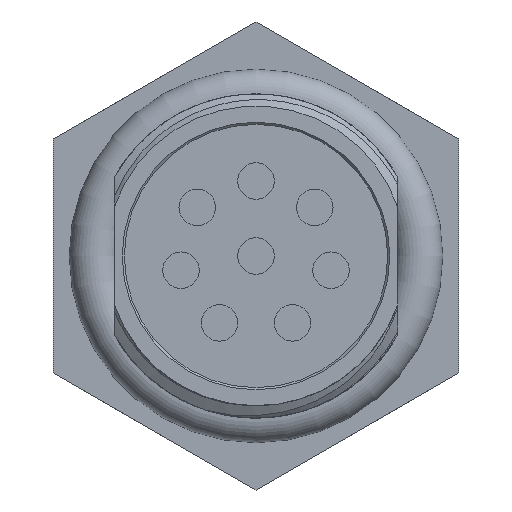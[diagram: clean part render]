
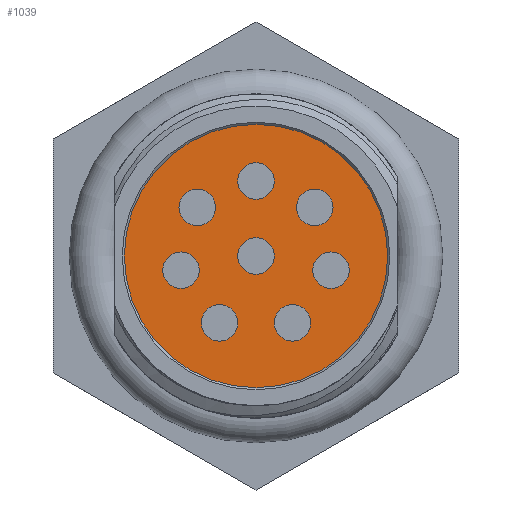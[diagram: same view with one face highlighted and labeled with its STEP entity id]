
A CAD part, left-side view. The second image highlights one B-rep face of the part: STEP entity #1039.
In plain terms, the highlighted planar face has unit normal (-1, 0, 0).
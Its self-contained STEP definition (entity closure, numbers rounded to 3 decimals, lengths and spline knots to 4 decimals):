
#1039=ADVANCED_FACE('',(#1571,#1572,#1573,#1574,#1575,#1576,#1577,#1578,
#1579),#1249,.T.);
#1249=PLANE('',#5578);
#1395=CIRCLE('',#5561,0.45);
#1396=CIRCLE('',#5563,0.45);
#1397=CIRCLE('',#5565,0.45);
#1398=CIRCLE('',#5567,0.45);
#1399=CIRCLE('',#5569,0.45);
#1400=CIRCLE('',#5571,0.45);
#1401=CIRCLE('',#5573,0.45);
#1402=CIRCLE('',#5575,0.45);
#1403=CIRCLE('',#5577,3.25);
#1571=FACE_BOUND('',#1890,.T.);
#1572=FACE_BOUND('',#1891,.T.);
#1573=FACE_BOUND('',#1892,.T.);
#1574=FACE_BOUND('',#1893,.T.);
#1575=FACE_BOUND('',#1894,.T.);
#1576=FACE_BOUND('',#1895,.T.);
#1577=FACE_BOUND('',#1896,.T.);
#1578=FACE_BOUND('',#1897,.T.);
#1579=FACE_BOUND('',#1898,.T.);
#1890=EDGE_LOOP('',(#2833));
#1891=EDGE_LOOP('',(#2834));
#1892=EDGE_LOOP('',(#2835));
#1893=EDGE_LOOP('',(#2836));
#1894=EDGE_LOOP('',(#2837));
#1895=EDGE_LOOP('',(#2838));
#1896=EDGE_LOOP('',(#2839));
#1897=EDGE_LOOP('',(#2840));
#1898=EDGE_LOOP('',(#2841));
#2833=ORIENTED_EDGE('',*,*,#4388,.T.);
#2834=ORIENTED_EDGE('',*,*,#4387,.T.);
#2835=ORIENTED_EDGE('',*,*,#4386,.T.);
#2836=ORIENTED_EDGE('',*,*,#4385,.T.);
#2837=ORIENTED_EDGE('',*,*,#4389,.F.);
#2838=ORIENTED_EDGE('',*,*,#4384,.T.);
#2839=ORIENTED_EDGE('',*,*,#4383,.T.);
#2840=ORIENTED_EDGE('',*,*,#4382,.T.);
#2841=ORIENTED_EDGE('',*,*,#4381,.T.);
#3758=VERTEX_POINT('',#10781);
#3759=VERTEX_POINT('',#10784);
#3760=VERTEX_POINT('',#10787);
#3761=VERTEX_POINT('',#10790);
#3762=VERTEX_POINT('',#10793);
#3763=VERTEX_POINT('',#10796);
#3764=VERTEX_POINT('',#10799);
#3765=VERTEX_POINT('',#10802);
#3766=VERTEX_POINT('',#10805);
#4381=EDGE_CURVE('',#3758,#3758,#1395,.T.);
#4382=EDGE_CURVE('',#3759,#3759,#1396,.T.);
#4383=EDGE_CURVE('',#3760,#3760,#1397,.T.);
#4384=EDGE_CURVE('',#3761,#3761,#1398,.T.);
#4385=EDGE_CURVE('',#3762,#3762,#1399,.T.);
#4386=EDGE_CURVE('',#3763,#3763,#1400,.T.);
#4387=EDGE_CURVE('',#3764,#3764,#1401,.T.);
#4388=EDGE_CURVE('',#3765,#3765,#1402,.T.);
#4389=EDGE_CURVE('',#3766,#3766,#1403,.T.);
#5561=AXIS2_PLACEMENT_3D('',#10780,#6440,#6441);
#5563=AXIS2_PLACEMENT_3D('',#10783,#6444,#6445);
#5565=AXIS2_PLACEMENT_3D('',#10786,#6448,#6449);
#5567=AXIS2_PLACEMENT_3D('',#10789,#6452,#6453);
#5569=AXIS2_PLACEMENT_3D('',#10792,#6456,#6457);
#5571=AXIS2_PLACEMENT_3D('',#10795,#6460,#6461);
#5573=AXIS2_PLACEMENT_3D('',#10798,#6464,#6465);
#5575=AXIS2_PLACEMENT_3D('',#10801,#6468,#6469);
#5577=AXIS2_PLACEMENT_3D('',#10804,#6472,#6473);
#5578=AXIS2_PLACEMENT_3D('',#10806,#6474,#6475);
#6440=DIRECTION('',(1.,0.,0.));
#6441=DIRECTION('',(0.,0.,1.));
#6444=DIRECTION('',(1.,0.,0.));
#6445=DIRECTION('',(0.,0.,1.));
#6448=DIRECTION('',(1.,0.,0.));
#6449=DIRECTION('',(0.,0.,1.));
#6452=DIRECTION('',(1.,0.,0.));
#6453=DIRECTION('',(0.,0.,1.));
#6456=DIRECTION('',(1.,0.,0.));
#6457=DIRECTION('',(0.,0.,1.));
#6460=DIRECTION('',(1.,0.,0.));
#6461=DIRECTION('',(0.,0.,1.));
#6464=DIRECTION('',(1.,0.,0.));
#6465=DIRECTION('',(0.,0.,1.));
#6468=DIRECTION('',(1.,0.,0.));
#6469=DIRECTION('',(0.,0.,1.));
#6472=DIRECTION('',(1.,0.,0.));
#6473=DIRECTION('',(0.,0.,-1.));
#6474=DIRECTION('',(-1.,0.,0.));
#6475=DIRECTION('',(0.,0.,1.));
#10780=CARTESIAN_POINT('',(0.,-0.9,-1.65));
#10781=CARTESIAN_POINT('',(0.,-0.9,-1.2));
#10783=CARTESIAN_POINT('',(0.,-1.45,1.2));
#10784=CARTESIAN_POINT('',(0.,-1.45,1.65));
#10786=CARTESIAN_POINT('',(0.,0.,1.85));
#10787=CARTESIAN_POINT('',(0.,0.,2.3));
#10789=CARTESIAN_POINT('',(0.,1.85,-0.35));
#10790=CARTESIAN_POINT('',(0.,1.85,0.1));
#10792=CARTESIAN_POINT('',(0.,0.9,-1.65));
#10793=CARTESIAN_POINT('',(0.,0.9,-1.2));
#10795=CARTESIAN_POINT('',(0.,1.45,1.2));
#10796=CARTESIAN_POINT('',(0.,1.45,1.65));
#10798=CARTESIAN_POINT('',(0.,0.,0.));
#10799=CARTESIAN_POINT('',(0.,0.,0.45));
#10801=CARTESIAN_POINT('',(0.,-1.85,-0.35));
#10802=CARTESIAN_POINT('',(0.,-1.85,0.1));
#10804=CARTESIAN_POINT('',(0.,0.,0.));
#10805=CARTESIAN_POINT('',(0.,0.,-3.25));
#10806=CARTESIAN_POINT('',(0.,0.,0.));
